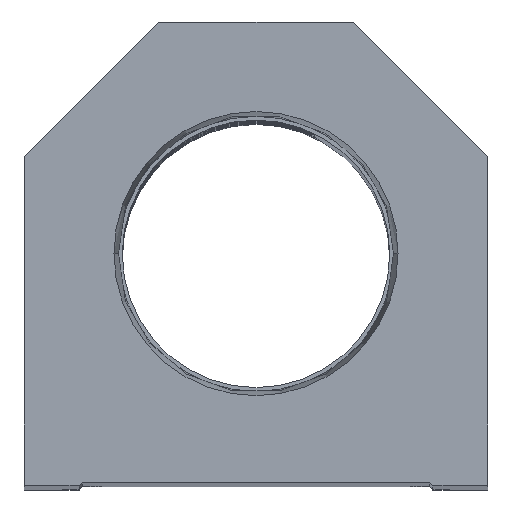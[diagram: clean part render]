
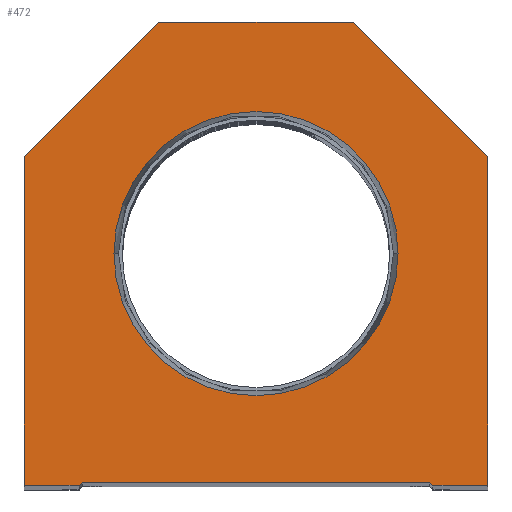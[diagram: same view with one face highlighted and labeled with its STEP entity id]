
A CAD part, top view. The second image highlights one B-rep face of the part: STEP entity #472.
In plain terms, the highlighted planar face has unit normal (0, 0, 1).
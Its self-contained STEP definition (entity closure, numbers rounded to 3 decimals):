
#162 = EDGE_CURVE ( 'NONE', #9930, #17264, #2785, .T. ) ;
#472 = ADVANCED_FACE ( 'NONE', ( #7428, #2193 ), #16581, .T. ) ;
#549 = DIRECTION ( 'NONE',  ( 0., 0., 1. ) ) ;
#732 = LINE ( 'NONE', #15112, #4665 ) ;
#1222 = AXIS2_PLACEMENT_3D ( 'NONE', #4132, #549, #20592 ) ;
#1259 = DIRECTION ( 'NONE',  ( 1., 0., 0. ) ) ;
#1497 = ORIENTED_EDGE ( 'NONE', *, *, #2899, .T. ) ;
#1672 = VERTEX_POINT ( 'NONE', #23105 ) ;
#1721 = DIRECTION ( 'NONE',  ( -1., 0., 0. ) ) ;
#2021 = EDGE_CURVE ( 'NONE', #8540, #14590, #15850, .T. ) ;
#2193 = FACE_OUTER_BOUND ( 'NONE', #11076, .T. ) ;
#2210 = EDGE_CURVE ( 'NONE', #17264, #9930, #21529, .T. ) ;
#2450 = VERTEX_POINT ( 'NONE', #13432 ) ;
#2599 = ORIENTED_EDGE ( 'NONE', *, *, #14545, .T. ) ;
#2785 = CIRCLE ( 'NONE', #16193, 23.374 ) ;
#2899 = EDGE_CURVE ( 'NONE', #6914, #1672, #17785, .T. ) ;
#3242 = EDGE_CURVE ( 'NONE', #1672, #8540, #732, .T. ) ;
#3273 = DIRECTION ( 'NONE',  ( 0.707, -0.707, 0. ) ) ;
#3380 = ORIENTED_EDGE ( 'NONE', *, *, #22648, .T. ) ;
#3700 = CARTESIAN_POINT ( 'NONE',  ( 23.374, 38.1, 0. ) ) ;
#3878 = VECTOR ( 'NONE', #8163, 1000. ) ;
#4034 = CARTESIAN_POINT ( 'NONE',  ( 29.1, 0., 0. ) ) ;
#4132 = CARTESIAN_POINT ( 'NONE',  ( 0., 38.1, 0. ) ) ;
#4276 = EDGE_LOOP ( 'NONE', ( #19152, #21563 ) ) ;
#4665 = VECTOR ( 'NONE', #17281, 1000. ) ;
#5095 = CARTESIAN_POINT ( 'NONE',  ( 38.1, 0., 0. ) ) ;
#5296 = VERTEX_POINT ( 'NONE', #14214 ) ;
#5335 = VECTOR ( 'NONE', #9605, 1000. ) ;
#5737 = CARTESIAN_POINT ( 'NONE',  ( 0., 0., 0. ) ) ;
#6197 = LINE ( 'NONE', #18702, #13136 ) ;
#6659 = VECTOR ( 'NONE', #17552, 1000. ) ;
#6914 = VERTEX_POINT ( 'NONE', #15714 ) ;
#7033 = VERTEX_POINT ( 'NONE', #20138 ) ;
#7428 = FACE_BOUND ( 'NONE', #4276, .T. ) ;
#7764 = VERTEX_POINT ( 'NONE', #4034 ) ;
#8163 = DIRECTION ( 'NONE',  ( 0., -1., 0. ) ) ;
#8223 = VECTOR ( 'NONE', #1259, 1000. ) ;
#8321 = ORIENTED_EDGE ( 'NONE', *, *, #20792, .T. ) ;
#8540 = VERTEX_POINT ( 'NONE', #22265 ) ;
#8694 = LINE ( 'NONE', #5095, #22061 ) ;
#9276 = CARTESIAN_POINT ( 'NONE',  ( -28.6, 0.5, 0. ) ) ;
#9332 = ORIENTED_EDGE ( 'NONE', *, *, #2021, .T. ) ;
#9459 = DIRECTION ( 'NONE',  ( 0., 0., 1. ) ) ;
#9577 = DIRECTION ( 'NONE',  ( 1., 0., 0. ) ) ;
#9605 = DIRECTION ( 'NONE',  ( 0.707, 0.707, 0. ) ) ;
#9930 = VERTEX_POINT ( 'NONE', #3700 ) ;
#10121 = EDGE_CURVE ( 'NONE', #14590, #2450, #6197, .T. ) ;
#10784 = LINE ( 'NONE', #10920, #14478 ) ;
#10920 = CARTESIAN_POINT ( 'NONE',  ( 14.55, 14.55, 0. ) ) ;
#11004 = DIRECTION ( 'NONE',  ( 0., 0., 1. ) ) ;
#11076 = EDGE_LOOP ( 'NONE', ( #23028, #3380, #20083, #8321, #17813, #13538, #2599, #1497, #12477, #9332 ) ) ;
#11161 = CARTESIAN_POINT ( 'NONE',  ( -14.55, 14.55, 0. ) ) ;
#11186 = DIRECTION ( 'NONE',  ( -0.707, 0.707, 0. ) ) ;
#11726 = DIRECTION ( 'NONE',  ( 1., 0., 0. ) ) ;
#12384 = VECTOR ( 'NONE', #11186, 1000. ) ;
#12477 = ORIENTED_EDGE ( 'NONE', *, *, #3242, .T. ) ;
#13136 = VECTOR ( 'NONE', #11726, 1000. ) ;
#13432 = CARTESIAN_POINT ( 'NONE',  ( -29.1, 0., 0. ) ) ;
#13538 = ORIENTED_EDGE ( 'NONE', *, *, #19159, .T. ) ;
#14214 = CARTESIAN_POINT ( 'NONE',  ( 28.6, 0.5, 0. ) ) ;
#14288 = LINE ( 'NONE', #18000, #6659 ) ;
#14478 = VECTOR ( 'NONE', #3273, 1000. ) ;
#14545 = EDGE_CURVE ( 'NONE', #7033, #6914, #23722, .T. ) ;
#14590 = VERTEX_POINT ( 'NONE', #14704 ) ;
#14704 = CARTESIAN_POINT ( 'NONE',  ( -38.1, 0., 0. ) ) ;
#15112 = CARTESIAN_POINT ( 'NONE',  ( -38.1, 54.1, 0. ) ) ;
#15714 = CARTESIAN_POINT ( 'NONE',  ( 16., 76.2, 0. ) ) ;
#15850 = LINE ( 'NONE', #23198, #3878 ) ;
#15891 = LINE ( 'NONE', #23343, #8223 ) ;
#16162 = DIRECTION ( 'NONE',  ( 0., 1., 0. ) ) ;
#16193 = AXIS2_PLACEMENT_3D ( 'NONE', #22096, #11004, #21612 ) ;
#16274 = CARTESIAN_POINT ( 'NONE',  ( 38.1, 54.1, 0. ) ) ;
#16314 = CARTESIAN_POINT ( 'NONE',  ( 38.1, 0., 0. ) ) ;
#16511 = VERTEX_POINT ( 'NONE', #16314 ) ;
#16581 = PLANE ( 'NONE',  #19987 ) ;
#17021 = EDGE_CURVE ( 'NONE', #7764, #16511, #14288, .T. ) ;
#17264 = VERTEX_POINT ( 'NONE', #20344 ) ;
#17281 = DIRECTION ( 'NONE',  ( -0.707, -0.707, 0. ) ) ;
#17483 = EDGE_CURVE ( 'NONE', #19272, #5296, #15891, .T. ) ;
#17552 = DIRECTION ( 'NONE',  ( 1., 0., 0. ) ) ;
#17785 = LINE ( 'NONE', #21411, #19996 ) ;
#17813 = ORIENTED_EDGE ( 'NONE', *, *, #17021, .T. ) ;
#18000 = CARTESIAN_POINT ( 'NONE',  ( 28.6, 0., 0. ) ) ;
#18702 = CARTESIAN_POINT ( 'NONE',  ( -28.6, 0., 0. ) ) ;
#19152 = ORIENTED_EDGE ( 'NONE', *, *, #162, .F. ) ;
#19159 = EDGE_CURVE ( 'NONE', #16511, #7033, #8694, .T. ) ;
#19272 = VERTEX_POINT ( 'NONE', #9276 ) ;
#19987 = AXIS2_PLACEMENT_3D ( 'NONE', #5737, #9459, #9577 ) ;
#19996 = VECTOR ( 'NONE', #1721, 1000. ) ;
#20083 = ORIENTED_EDGE ( 'NONE', *, *, #17483, .T. ) ;
#20138 = CARTESIAN_POINT ( 'NONE',  ( 38.1, 54.1, 0. ) ) ;
#20322 = LINE ( 'NONE', #11161, #5335 ) ;
#20344 = CARTESIAN_POINT ( 'NONE',  ( -23.374, 38.1, 0. ) ) ;
#20592 = DIRECTION ( 'NONE',  ( 1., 0., 0. ) ) ;
#20792 = EDGE_CURVE ( 'NONE', #5296, #7764, #10784, .T. ) ;
#21411 = CARTESIAN_POINT ( 'NONE',  ( 16., 76.2, 0. ) ) ;
#21529 = CIRCLE ( 'NONE', #1222, 23.374 ) ;
#21563 = ORIENTED_EDGE ( 'NONE', *, *, #2210, .F. ) ;
#21612 = DIRECTION ( 'NONE',  ( 1., 0., 0. ) ) ;
#22061 = VECTOR ( 'NONE', #16162, 1000. ) ;
#22096 = CARTESIAN_POINT ( 'NONE',  ( 0., 38.1, 0. ) ) ;
#22265 = CARTESIAN_POINT ( 'NONE',  ( -38.1, 54.1, 0. ) ) ;
#22648 = EDGE_CURVE ( 'NONE', #2450, #19272, #20322, .T. ) ;
#23028 = ORIENTED_EDGE ( 'NONE', *, *, #10121, .T. ) ;
#23105 = CARTESIAN_POINT ( 'NONE',  ( -16., 76.2, 0. ) ) ;
#23198 = CARTESIAN_POINT ( 'NONE',  ( -38.1, 0., 0. ) ) ;
#23343 = CARTESIAN_POINT ( 'NONE',  ( -28.6, 0.5, 0. ) ) ;
#23722 = LINE ( 'NONE', #16274, #12384 ) ;
